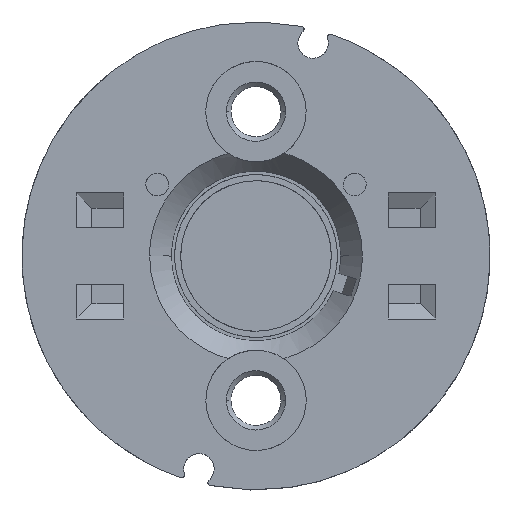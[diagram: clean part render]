
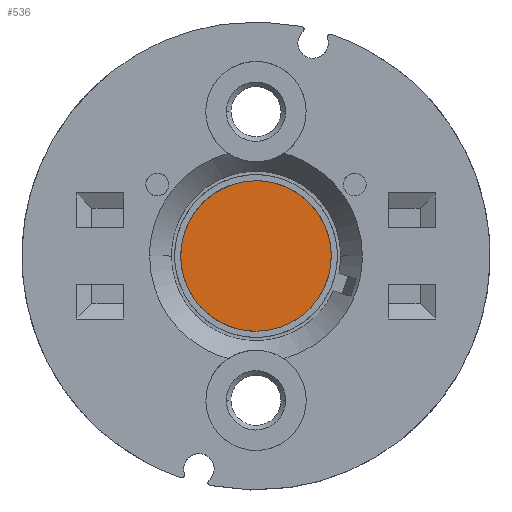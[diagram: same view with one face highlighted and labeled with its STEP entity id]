
A CAD part, top view. The second image highlights one B-rep face of the part: STEP entity #536.
In plain terms, the highlighted planar face has unit normal (0, 0, 1).
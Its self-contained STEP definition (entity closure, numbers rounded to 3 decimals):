
#4 = CARTESIAN_POINT ( 'NONE',  ( 1.622, -4.755, 1.54 ) ) ;
#22 = CARTESIAN_POINT ( 'NONE',  ( 2.484, -4.294, 1.54 ) ) ;
#33 = CARTESIAN_POINT ( 'NONE',  ( 3.027, -3.93, 1.54 ) ) ;
#43 = CARTESIAN_POINT ( 'NONE',  ( -5.097, -4.95, 1.54 ) ) ;
#50 = CARTESIAN_POINT ( 'NONE',  ( 3.28, -3.721, 1.54 ) ) ;
#54 = DIRECTION ( 'NONE',  ( 1., 0., 0. ) ) ;
#87 = CARTESIAN_POINT ( 'NONE',  ( 3.965, -3.033, 1.54 ) ) ;
#96 = CARTESIAN_POINT ( 'NONE',  ( 0., 4.95, 1.54 ) ) ;
#102 = CARTESIAN_POINT ( 'NONE',  ( -4.79, 1.289, 1.54 ) ) ;
#118 = CARTESIAN_POINT ( 'NONE',  ( 4.508, -2.218, 1.54 ) ) ;
#146 = CARTESIAN_POINT ( 'NONE',  ( 4.792, -1.282, 1.54 ) ) ;
#178 = CARTESIAN_POINT ( 'NONE',  ( 4.919, -0.64, 1.54 ) ) ;
#210 = CARTESIAN_POINT ( 'NONE',  ( 4.951, -0.315, 1.54 ) ) ;
#232 = CARTESIAN_POINT ( 'NONE',  ( 4.949, 0.654, 1.54 ) ) ;
#260 = CARTESIAN_POINT ( 'NONE',  ( 4.821, 1.295, 1.54 ) ) ;
#268 = CARTESIAN_POINT ( 'NONE',  ( 4.45, 2.191, 1.54 ) ) ;
#294 = CARTESIAN_POINT ( 'NONE',  ( 4.296, 2.481, 1.54 ) ) ;
#302 = CARTESIAN_POINT ( 'NONE',  ( 3.933, 3.024, 1.54 ) ) ;
#303 = DIRECTION ( 'NONE',  ( 0., 0., 1. ) ) ;
#312 = CARTESIAN_POINT ( 'NONE',  ( 3.312, 3.778, 1.54 ) ) ;
#324 = CARTESIAN_POINT ( 'NONE',  ( 2.498, 4.322, 1.54 ) ) ;
#338 = CARTESIAN_POINT ( 'NONE',  ( 1.6, 4.695, 1.54 ) ) ;
#346 = CARTESIAN_POINT ( 'NONE',  ( 1.285, 4.791, 1.54 ) ) ;
#356 = CARTESIAN_POINT ( 'NONE',  ( 0.646, 4.919, 1.54 ) ) ;
#361 = CARTESIAN_POINT ( 'NONE',  ( 0., 4.95, 1.54 ) ) ;
#373 = CARTESIAN_POINT ( 'NONE',  ( 0.322, 4.95, 1.54 ) ) ;
#536 = ADVANCED_FACE ( 'NONE', ( #5475 ), #3313, .T. ) ;
#735 = CARTESIAN_POINT ( 'NONE',  ( 0., 4.95, 1.54 ) ) ;
#761 = CARTESIAN_POINT ( 'NONE',  ( -5.013, -0.315, 1.54 ) ) ;
#765 = VERTEX_POINT ( 'NONE', #6266 ) ;
#1044 = AXIS2_PLACEMENT_3D ( 'NONE', #43, #303, #54 ) ;
#1427 = CARTESIAN_POINT ( 'NONE',  ( -4.455, -2.183, 1.54 ) ) ;
#1511 = EDGE_CURVE ( 'NONE', #765, #6738, #8038, .T. ) ;
#2060 = CARTESIAN_POINT ( 'NONE',  ( -1.286, 4.824, 1.54 ) ) ;
#2091 = CARTESIAN_POINT ( 'NONE',  ( -3.941, -3.013, 1.54 ) ) ;
#2490 = ORIENTED_EDGE ( 'NONE', *, *, #8376, .T. ) ;
#2632 = ORIENTED_EDGE ( 'NONE', *, *, #1511, .T. ) ;
#2755 = CARTESIAN_POINT ( 'NONE',  ( -2.478, 4.298, 1.54 ) ) ;
#2796 = CARTESIAN_POINT ( 'NONE',  ( -2.512, -4.315, 1.54 ) ) ;
#3313 = PLANE ( 'NONE',  #1044 ) ;
#3459 = CARTESIAN_POINT ( 'NONE',  ( -3.771, 3.319, 1.54 ) ) ;
#3490 = CARTESIAN_POINT ( 'NONE',  ( -0.655, -4.95, 1.54 ) ) ;
#3719 = B_SPLINE_CURVE_WITH_KNOTS ( 'NONE', 3,
 ( #735, #4776, #2060, #6793, #2755, #7428, #3459, #8114, #4131, #102, #4811, #761, #5482, #1427, #6148, #2091, #6819, #2796, #7454, #3490, #8144 ),
 .UNSPECIFIED., .F., .F.,
 ( 4, 2, 2, 1, 2, 2, 1, 2, 2, 1, 2, 4 ),
 ( 0., 0.125, 0.188, 0.25, 0.375, 0.438, 0.5, 0.625, 0.687, 0.75, 0.875, 1. ),
 .UNSPECIFIED. ) ;
#4131 = CARTESIAN_POINT ( 'NONE',  ( -4.694, 1.605, 1.54 ) ) ;
#4776 = CARTESIAN_POINT ( 'NONE',  ( -0.645, 4.95, 1.54 ) ) ;
#4811 = CARTESIAN_POINT ( 'NONE',  ( -4.918, 0.653, 1.54 ) ) ;
#5475 = FACE_OUTER_BOUND ( 'NONE', #8137, .T. ) ;
#5482 = CARTESIAN_POINT ( 'NONE',  ( -4.826, -1.278, 1.54 ) ) ;
#6148 = CARTESIAN_POINT ( 'NONE',  ( -4.3, -2.474, 1.54 ) ) ;
#6266 = CARTESIAN_POINT ( 'NONE',  ( 0., -4.95, 1.54 ) ) ;
#6666 = CARTESIAN_POINT ( 'NONE',  ( 0., -4.95, 1.54 ) ) ;
#6738 = VERTEX_POINT ( 'NONE', #96 ) ;
#6793 = CARTESIAN_POINT ( 'NONE',  ( -2.186, 4.453, 1.54 ) ) ;
#6819 = CARTESIAN_POINT ( 'NONE',  ( -3.326, -3.764, 1.54 ) ) ;
#7428 = CARTESIAN_POINT ( 'NONE',  ( -3.019, 3.937, 1.54 ) ) ;
#7454 = CARTESIAN_POINT ( 'NONE',  ( -1.306, -4.819, 1.54 ) ) ;
#8038 = B_SPLINE_CURVE_WITH_KNOTS ( 'NONE', 3,
 ( #6666, #8042, #4, #22, #33, #50, #87, #118, #146, #178, #210, #232, #260, #268, #294, #302, #312, #324, #338, #346, #356, #373, #361 ),
 .UNSPECIFIED., .F., .F.,
 ( 4, 1, 2, 2, 1, 2, 2, 2, 2, 1, 2, 2, 4 ),
 ( 0., 0.125, 0.188, 0.25, 0.375, 0.438, 0.5, 0.625, 0.688, 0.75, 0.875, 0.938, 1. ),
 .UNSPECIFIED. ) ;
#8042 = CARTESIAN_POINT ( 'NONE',  ( 0.655, -4.95, 1.54 ) ) ;
#8114 = CARTESIAN_POINT ( 'NONE',  ( -4.318, 2.505, 1.54 ) ) ;
#8137 = EDGE_LOOP ( 'NONE', ( #2632, #2490 ) ) ;
#8144 = CARTESIAN_POINT ( 'NONE',  ( 0., -4.95, 1.54 ) ) ;
#8376 = EDGE_CURVE ( 'NONE', #6738, #765, #3719, .T. ) ;
